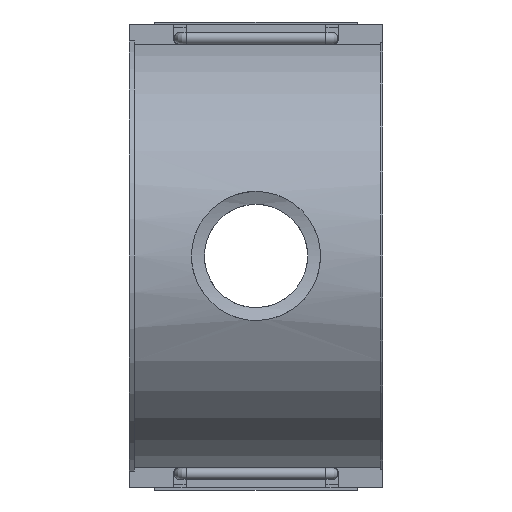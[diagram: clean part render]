
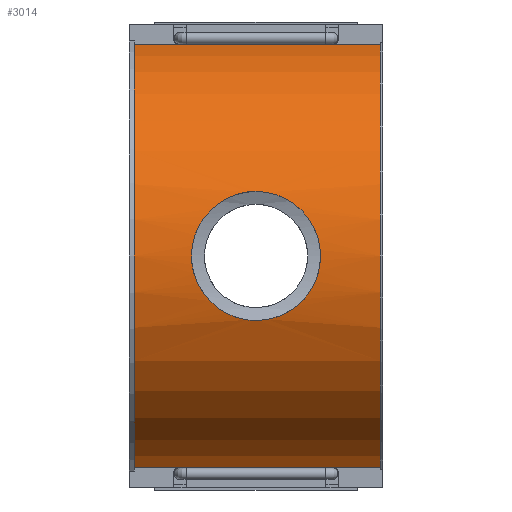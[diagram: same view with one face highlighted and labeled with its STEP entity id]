
A CAD part, front view. The second image highlights one B-rep face of the part: STEP entity #3014.
In plain terms, the highlighted cylindrical face has radius 100.712 mm (diameter 201.424 mm), a partial arc.
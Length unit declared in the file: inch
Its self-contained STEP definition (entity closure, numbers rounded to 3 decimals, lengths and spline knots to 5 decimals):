
#51=B_SPLINE_CURVE_WITH_KNOTS('',3,(#5164,#5165,#5166,#5167,#5168,#5169,
#5170,#5171,#5172,#5173,#5174,#5175,#5176,#5177,#5178,#5179,#5180,#5181,
#5182,#5183,#5184,#5185,#5186,#5187,#5188,#5189,#5190,#5191,#5192,#5193,
#5194,#5195,#5196,#5197,#5198,#5199,#5200,#5201,#5202,#5203,#5204,#5205,
#5206,#5207,#5208,#5209,#5210,#5211,#5212,#5213),.UNSPECIFIED.,.F.,.F.,
(4,2,2,2,2,2,2,2,2,2,2,2,2,2,2,2,2,2,2,2,2,2,2,2,4),(0.,0.56982,
1.13964,1.70946,2.27928,2.84893,3.41858,
3.98824,4.55789,5.12754,5.6972,6.26685,
6.8365,7.40632,7.97614,8.54596,9.11578,
9.6856,10.25542,10.82524,11.39506,11.96471,
12.53436,13.10401,13.67367),.UNSPECIFIED.);
#52=B_SPLINE_CURVE_WITH_KNOTS('',3,(#5214,#5215,#5216,#5217,#5218,#5219,
#5220,#5221,#5222,#5223,#5224,#5225,#5226,#5227,#5228,#5229,#5230,#5231),
 .UNSPECIFIED.,.F.,.F.,(4,2,2,2,2,2,2,2,4),(13.67367,14.24332,
14.81297,15.38263,15.95228,16.5221,17.09192,
17.66174,18.23156),.UNSPECIFIED.);
#70=FACE_BOUND('',#540,.T.);
#224=CYLINDRICAL_SURFACE('',#3290,3.96504);
#352=FACE_OUTER_BOUND('',#539,.T.);
#539=EDGE_LOOP('',(#2634,#2635,#2636,#2637,#2638,#2639,#2640,#2641));
#540=EDGE_LOOP('',(#2642,#2643));
#783=LINE('',#5325,#1082);
#784=LINE('',#5327,#1083);
#800=LINE('',#5363,#1099);
#801=LINE('',#5366,#1100);
#802=LINE('',#5368,#1101);
#803=LINE('',#5369,#1102);
#1082=VECTOR('',#3945,0.3937);
#1083=VECTOR('',#3948,0.3937);
#1099=VECTOR('',#3980,0.3937);
#1100=VECTOR('',#3983,0.3937);
#1101=VECTOR('',#3984,0.3937);
#1102=VECTOR('',#3985,0.3937);
#1262=CIRCLE('',#3259,3.96504);
#1265=CIRCLE('',#3264,3.96504);
#1465=VERTEX_POINT('',#5161);
#1466=VERTEX_POINT('',#5163);
#1471=VERTEX_POINT('',#5242);
#1472=VERTEX_POINT('',#5243);
#1477=VERTEX_POINT('',#5257);
#1478=VERTEX_POINT('',#5258);
#1487=VERTEX_POINT('',#5281);
#1496=VERTEX_POINT('',#5305);
#1513=VERTEX_POINT('',#5365);
#1514=VERTEX_POINT('',#5367);
#1836=EDGE_CURVE('',#1466,#1465,#51,.T.);
#1837=EDGE_CURVE('',#1465,#1466,#52,.T.);
#1842=EDGE_CURVE('',#1471,#1472,#1262,.T.);
#1849=EDGE_CURVE('',#1477,#1478,#1265,.T.);
#1883=EDGE_CURVE('',#1496,#1478,#783,.T.);
#1884=EDGE_CURVE('',#1471,#1487,#784,.T.);
#1902=EDGE_CURVE('',#1487,#1496,#800,.T.);
#1903=EDGE_CURVE('',#1472,#1513,#801,.T.);
#1904=EDGE_CURVE('',#1513,#1514,#802,.T.);
#1905=EDGE_CURVE('',#1514,#1477,#803,.T.);
#2634=ORIENTED_EDGE('',*,*,#1842,.T.);
#2635=ORIENTED_EDGE('',*,*,#1903,.T.);
#2636=ORIENTED_EDGE('',*,*,#1904,.T.);
#2637=ORIENTED_EDGE('',*,*,#1905,.T.);
#2638=ORIENTED_EDGE('',*,*,#1849,.T.);
#2639=ORIENTED_EDGE('',*,*,#1883,.F.);
#2640=ORIENTED_EDGE('',*,*,#1902,.F.);
#2641=ORIENTED_EDGE('',*,*,#1884,.F.);
#2642=ORIENTED_EDGE('',*,*,#1836,.T.);
#2643=ORIENTED_EDGE('',*,*,#1837,.T.);
#3014=ADVANCED_FACE('',(#352,#70),#224,.T.);
#3259=AXIS2_PLACEMENT_3D('',#5244,#3870,#3871);
#3264=AXIS2_PLACEMENT_3D('',#5259,#3884,#3885);
#3290=AXIS2_PLACEMENT_3D('',#5364,#3981,#3982);
#3870=DIRECTION('center_axis',(-1.,0.,0.));
#3871=DIRECTION('ref_axis',(0.,-0.217,0.976));
#3884=DIRECTION('center_axis',(1.,0.,0.));
#3885=DIRECTION('ref_axis',(0.,-0.217,0.976));
#3945=DIRECTION('',(-1.,0.,0.));
#3948=DIRECTION('',(-1.,0.,0.));
#3980=DIRECTION('',(-1.,0.,0.));
#3981=DIRECTION('center_axis',(-1.,0.,0.));
#3982=DIRECTION('ref_axis',(0.,-0.217,0.976));
#3983=DIRECTION('',(-1.,0.,0.));
#3984=DIRECTION('',(-1.,0.,0.));
#3985=DIRECTION('',(-1.,0.,0.));
#5161=CARTESIAN_POINT('',(-3.50807,-3.96504,0.));
#5163=CARTESIAN_POINT('',(-2.325,-3.78443,1.18307));
#5164=CARTESIAN_POINT('Ctrl Pts',(-2.325,-3.78443,1.18307));
#5165=CARTESIAN_POINT('Ctrl Pts',(-2.25022,-3.78443,1.18307));
#5166=CARTESIAN_POINT('Ctrl Pts',(-2.17304,-3.7867,1.17587));
#5167=CARTESIAN_POINT('Ctrl Pts',(-2.01983,-3.79594,1.1457));
#5168=CARTESIAN_POINT('Ctrl Pts',(-1.94379,-3.80289,1.12274));
#5169=CARTESIAN_POINT('Ctrl Pts',(-1.7982,-3.82023,1.06224));
#5170=CARTESIAN_POINT('Ctrl Pts',(-1.72852,-3.83062,1.02464));
#5171=CARTESIAN_POINT('Ctrl Pts',(-1.59978,-3.85277,0.93794));
#5172=CARTESIAN_POINT('Ctrl Pts',(-1.54071,-3.8645,0.88883));
#5173=CARTESIAN_POINT('Ctrl Pts',(-1.43619,-3.88706,0.7843));
#5174=CARTESIAN_POINT('Ctrl Pts',(-1.38708,-3.89869,0.72524));
#5175=CARTESIAN_POINT('Ctrl Pts',(-1.30037,-3.92046,0.5965));
#5176=CARTESIAN_POINT('Ctrl Pts',(-1.26276,-3.93057,0.52681));
#5177=CARTESIAN_POINT('Ctrl Pts',(-1.20225,-3.94735,0.38119));
#5178=CARTESIAN_POINT('Ctrl Pts',(-1.17929,-3.95402,0.30514));
#5179=CARTESIAN_POINT('Ctrl Pts',(-1.14913,-3.96287,0.15193));
#5180=CARTESIAN_POINT('Ctrl Pts',(-1.14193,-3.96504,0.07476));
#5181=CARTESIAN_POINT('Ctrl Pts',(-1.14193,-3.96504,-0.07476));
#5182=CARTESIAN_POINT('Ctrl Pts',(-1.14913,-3.96287,-0.15193));
#5183=CARTESIAN_POINT('Ctrl Pts',(-1.17929,-3.95402,-0.30514));
#5184=CARTESIAN_POINT('Ctrl Pts',(-1.20225,-3.94735,-0.38119));
#5185=CARTESIAN_POINT('Ctrl Pts',(-1.26276,-3.93057,-0.52681));
#5186=CARTESIAN_POINT('Ctrl Pts',(-1.30037,-3.92046,-0.5965));
#5187=CARTESIAN_POINT('Ctrl Pts',(-1.38708,-3.89869,-0.72524));
#5188=CARTESIAN_POINT('Ctrl Pts',(-1.43619,-3.88706,-0.7843));
#5189=CARTESIAN_POINT('Ctrl Pts',(-1.54071,-3.8645,-0.88883));
#5190=CARTESIAN_POINT('Ctrl Pts',(-1.59978,-3.85277,-0.93794));
#5191=CARTESIAN_POINT('Ctrl Pts',(-1.72852,-3.83062,-1.02464));
#5192=CARTESIAN_POINT('Ctrl Pts',(-1.7982,-3.82023,-1.06224));
#5193=CARTESIAN_POINT('Ctrl Pts',(-1.94379,-3.80289,-1.12274));
#5194=CARTESIAN_POINT('Ctrl Pts',(-2.01983,-3.79594,-1.1457));
#5195=CARTESIAN_POINT('Ctrl Pts',(-2.17304,-3.7867,-1.17587));
#5196=CARTESIAN_POINT('Ctrl Pts',(-2.25022,-3.78443,-1.18307));
#5197=CARTESIAN_POINT('Ctrl Pts',(-2.39978,-3.78443,-1.18307));
#5198=CARTESIAN_POINT('Ctrl Pts',(-2.47696,-3.7867,-1.17587));
#5199=CARTESIAN_POINT('Ctrl Pts',(-2.63017,-3.79594,-1.1457));
#5200=CARTESIAN_POINT('Ctrl Pts',(-2.70621,-3.80289,-1.12274));
#5201=CARTESIAN_POINT('Ctrl Pts',(-2.8518,-3.82023,-1.06224));
#5202=CARTESIAN_POINT('Ctrl Pts',(-2.92148,-3.83062,-1.02464));
#5203=CARTESIAN_POINT('Ctrl Pts',(-3.05022,-3.85277,-0.93794));
#5204=CARTESIAN_POINT('Ctrl Pts',(-3.10929,-3.8645,-0.88883));
#5205=CARTESIAN_POINT('Ctrl Pts',(-3.21381,-3.88706,-0.7843));
#5206=CARTESIAN_POINT('Ctrl Pts',(-3.26292,-3.89869,-0.72524));
#5207=CARTESIAN_POINT('Ctrl Pts',(-3.34963,-3.92046,-0.5965));
#5208=CARTESIAN_POINT('Ctrl Pts',(-3.38724,-3.93057,-0.52681));
#5209=CARTESIAN_POINT('Ctrl Pts',(-3.44775,-3.94735,-0.38119));
#5210=CARTESIAN_POINT('Ctrl Pts',(-3.47071,-3.95402,-0.30514));
#5211=CARTESIAN_POINT('Ctrl Pts',(-3.50087,-3.96287,-0.15193));
#5212=CARTESIAN_POINT('Ctrl Pts',(-3.50807,-3.96504,-0.07476));
#5213=CARTESIAN_POINT('Ctrl Pts',(-3.50807,-3.96504,0.));
#5214=CARTESIAN_POINT('Ctrl Pts',(-3.50807,-3.96504,0.));
#5215=CARTESIAN_POINT('Ctrl Pts',(-3.50807,-3.96504,0.07476));
#5216=CARTESIAN_POINT('Ctrl Pts',(-3.50087,-3.96287,0.15193));
#5217=CARTESIAN_POINT('Ctrl Pts',(-3.47071,-3.95402,0.30514));
#5218=CARTESIAN_POINT('Ctrl Pts',(-3.44775,-3.94735,0.38119));
#5219=CARTESIAN_POINT('Ctrl Pts',(-3.38724,-3.93057,0.52681));
#5220=CARTESIAN_POINT('Ctrl Pts',(-3.34963,-3.92046,0.5965));
#5221=CARTESIAN_POINT('Ctrl Pts',(-3.26292,-3.89869,0.72524));
#5222=CARTESIAN_POINT('Ctrl Pts',(-3.21381,-3.88706,0.7843));
#5223=CARTESIAN_POINT('Ctrl Pts',(-3.10929,-3.8645,0.88883));
#5224=CARTESIAN_POINT('Ctrl Pts',(-3.05022,-3.85277,0.93794));
#5225=CARTESIAN_POINT('Ctrl Pts',(-2.92148,-3.83062,1.02464));
#5226=CARTESIAN_POINT('Ctrl Pts',(-2.8518,-3.82023,1.06224));
#5227=CARTESIAN_POINT('Ctrl Pts',(-2.70621,-3.80289,1.12274));
#5228=CARTESIAN_POINT('Ctrl Pts',(-2.63017,-3.79594,1.1457));
#5229=CARTESIAN_POINT('Ctrl Pts',(-2.47696,-3.7867,1.17587));
#5230=CARTESIAN_POINT('Ctrl Pts',(-2.39978,-3.78443,1.18307));
#5231=CARTESIAN_POINT('Ctrl Pts',(-2.325,-3.78443,1.18307));
#5242=CARTESIAN_POINT('',(-0.0465,-0.85876,-3.87093));
#5243=CARTESIAN_POINT('',(-0.0465,-0.85876,3.87093));
#5244=CARTESIAN_POINT('Origin',(-0.0465,0.,0.));
#5257=CARTESIAN_POINT('',(-4.557,-0.85876,3.87093));
#5258=CARTESIAN_POINT('',(-4.557,-0.85876,-3.87093));
#5259=CARTESIAN_POINT('Origin',(-4.557,0.,0.));
#5281=CARTESIAN_POINT('',(-0.93,-0.85876,-3.87093));
#5305=CARTESIAN_POINT('',(-3.72,-0.85876,-3.87093));
#5325=CARTESIAN_POINT('',(0.,-0.85876,-3.87093));
#5327=CARTESIAN_POINT('',(0.,-0.85876,-3.87093));
#5363=CARTESIAN_POINT('',(0.,-0.85876,-3.87093));
#5364=CARTESIAN_POINT('Origin',(0.,0.,0.));
#5365=CARTESIAN_POINT('',(-0.93,-0.85876,3.87093));
#5366=CARTESIAN_POINT('',(0.,-0.85876,3.87093));
#5367=CARTESIAN_POINT('',(-3.72,-0.85876,3.87093));
#5368=CARTESIAN_POINT('',(0.,-0.85876,3.87093));
#5369=CARTESIAN_POINT('',(0.,-0.85876,3.87093));
